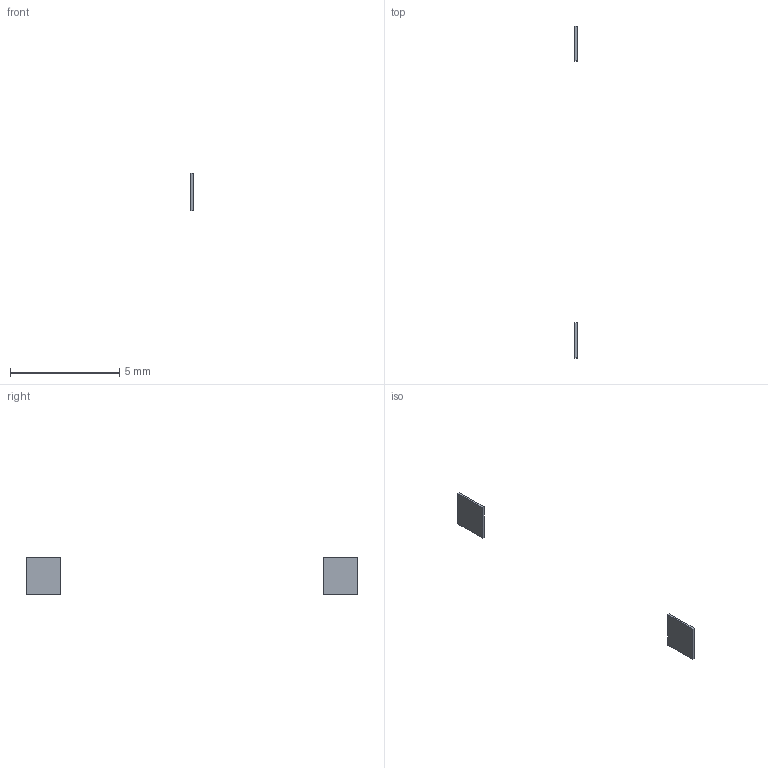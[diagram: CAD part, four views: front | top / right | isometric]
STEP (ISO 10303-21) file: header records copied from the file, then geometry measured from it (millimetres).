
FILE_DESCRIPTION(/* description */ (''),/* implementation_level */ '2;1');
FILE_NAME(/* name */ 'C28_R3_Volume_Down_Travel_Stop_Shims_0p10.step',/* time_stamp */ '2026-09-10T17:50:09-07:00',/* author */ (''),/* organization */ (''),/* preprocessor_version */ 'ST-DEVELOPER v20.1',/* originating_system */ 'Autodesk Translation Framework v15.8.0.0',/* authorisation */ '');
FILE_SCHEMA (('AUTOMOTIVE_DESIGN { 1 0 10303 214 3 1 1 }'));
Length unit declared in the file: millimetre
Products named in the file (1): 2026-09-10-17-50-09-862
Bounding box: 0.1 x 15.2 x 1.7 mm (x, y, z)
Volume: 0.5 mm3; surface area: 12.2 mm2
Topology: 2 solids, 2 shells, 12 faces, 24 edges, 16 vertices
Faces by surface type: plane 12
Entity records: 340 total; most frequent: CARTESIAN_POINT 53, DIRECTION 50, ORIENTED_EDGE 48, LINE 24, VECTOR 24, EDGE_CURVE 24, VERTEX_POINT 16, AXIS2_PLACEMENT_3D 13
